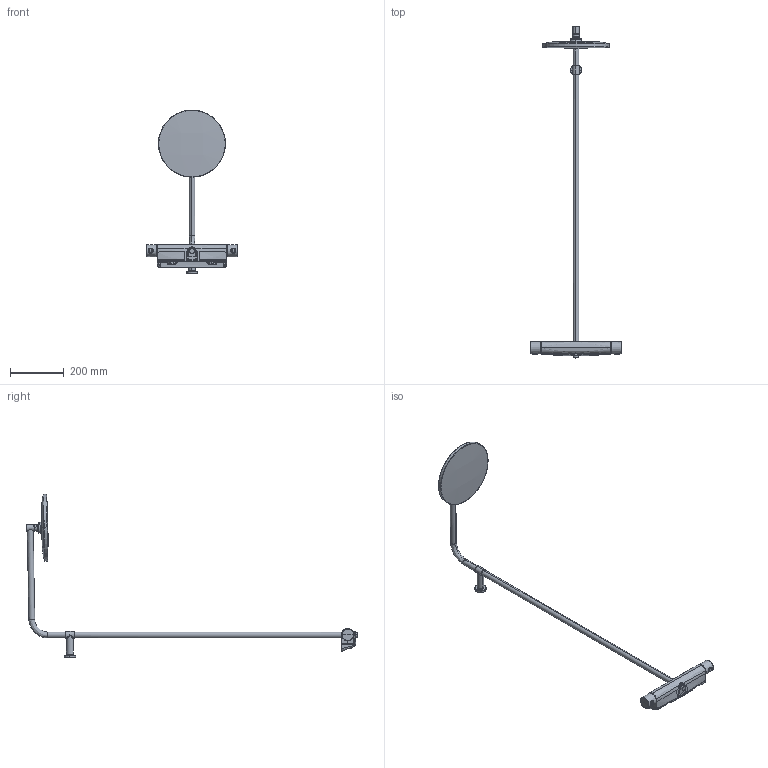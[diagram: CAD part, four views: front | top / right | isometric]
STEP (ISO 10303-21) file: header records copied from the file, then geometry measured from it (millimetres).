
FILE_DESCRIPTION (( 'STEP AP203' ), '1' );
FILE_NAME ('7192N(2023)+7192N-33(2023).STEP', '2023-02-09T08:10:08', ( '' ), ( '' ), 'SwSTEP 2.0', 'SolidWorks 2016', '' );
FILE_SCHEMA (( 'CONFIG_CONTROL_DESIGN' ));
Length unit declared in the file: millimetre
Products named in the file (1): 7192N(2023)+7192N-33(2023)
Bounding box: 342.65 x 1238.41 x 611.02 mm (x, y, z)
Volume: 2492997.2 mm3; surface area: 342223 mm2
Topology: 1 solids, 1 shells, 638 faces, 1548 edges, 918 vertices
Faces by surface type: bspline 392, cylinder 95, plane 72, cone 53, torus 18, sphere 8
Entity records: 42663 total; most frequent: CARTESIAN_POINT 30886, ORIENTED_EDGE 3054, EDGE_CURVE 1527, DIRECTION 1526, VERTEX_POINT 918, B_SPLINE_CURVE_WITH_KNOTS 807, EDGE_LOOP 669, AXIS2_PLACEMENT_3D 645
